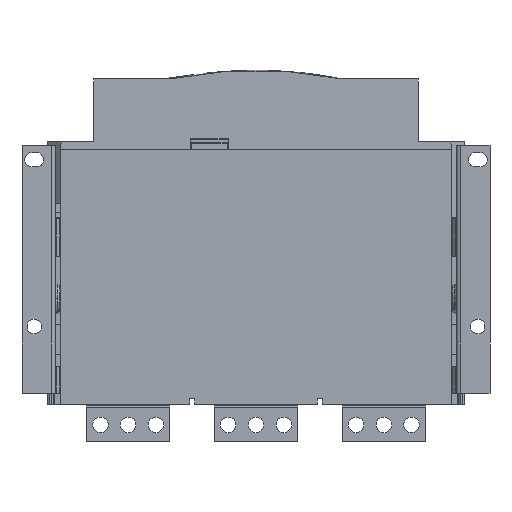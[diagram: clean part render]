
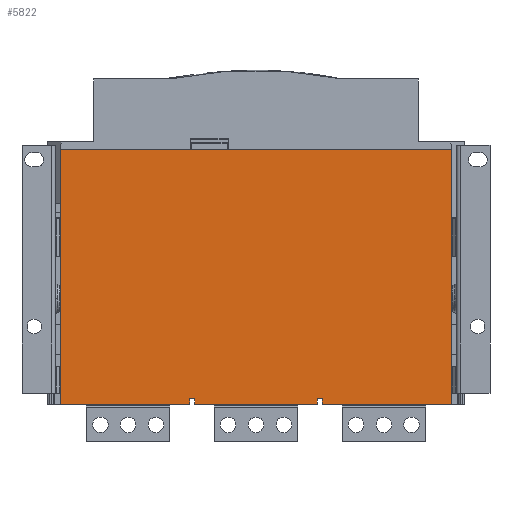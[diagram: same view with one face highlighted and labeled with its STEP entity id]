
A CAD part, front view. The second image highlights one B-rep face of the part: STEP entity #5822.
In plain terms, the highlighted planar face has unit normal (0, -1, 0).
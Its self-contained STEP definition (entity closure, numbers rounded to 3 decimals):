
#787 = EDGE_CURVE ( 'NONE', #42574, #28986, #116834, .T. ) ;
#1281 = VERTEX_POINT ( 'NONE', #22452 ) ;
#2656 = VECTOR ( 'NONE', #39673, 1000. ) ;
#5822 = ADVANCED_FACE ( 'NONE', ( #127231 ), #90558, .F. ) ;
#10576 = CARTESIAN_POINT ( 'NONE',  ( 118.222, 79.913, 207.614 ) ) ;
#10612 = DIRECTION ( 'NONE',  ( 1., 0., 0. ) ) ;
#10644 = EDGE_CURVE ( 'NONE', #61437, #42574, #142256, .T. ) ;
#12478 = VECTOR ( 'NONE', #97050, 1000. ) ;
#13738 = CARTESIAN_POINT ( 'NONE',  ( 233.972, 79.913, 309.114 ) ) ;
#17752 = LINE ( 'NONE', #13738, #86307 ) ;
#19256 = LINE ( 'NONE', #23169, #105491 ) ;
#19847 = ORIENTED_EDGE ( 'NONE', *, *, #22049, .T. ) ;
#22049 = EDGE_CURVE ( 'NONE', #93753, #1281, #96043, .T. ) ;
#22452 = CARTESIAN_POINT ( 'NONE',  ( 233.972, 79.913, 202.614 ) ) ;
#22928 = CARTESIAN_POINT ( 'NONE',  ( -1.278, 79.913, 207.614 ) ) ;
#23169 = CARTESIAN_POINT ( 'NONE',  ( 233.972, 79.913, 431.614 ) ) ;
#23843 = EDGE_CURVE ( 'NONE', #144560, #31842, #138481, .T. ) ;
#25431 = ORIENTED_EDGE ( 'NONE', *, *, #93873, .F. ) ;
#25946 = VECTOR ( 'NONE', #100768, 1000. ) ;
#26235 = ORIENTED_EDGE ( 'NONE', *, *, #787, .T. ) ;
#28986 = VERTEX_POINT ( 'NONE', #49811 ) ;
#31744 = ORIENTED_EDGE ( 'NONE', *, *, #66371, .T. ) ;
#31842 = VERTEX_POINT ( 'NONE', #40202 ) ;
#38915 = VERTEX_POINT ( 'NONE', #136415 ) ;
#38966 = CARTESIAN_POINT ( 'NONE',  ( -117.028, 79.913, 202.614 ) ) ;
#39636 = LINE ( 'NONE', #87409, #110119 ) ;
#39673 = DIRECTION ( 'NONE',  ( -1., 0., 0. ) ) ;
#40108 = VECTOR ( 'NONE', #92103, 1000. ) ;
#40202 = CARTESIAN_POINT ( 'NONE',  ( -1.278, 79.913, 202.614 ) ) ;
#42574 = VERTEX_POINT ( 'NONE', #79960 ) ;
#45913 = CARTESIAN_POINT ( 'NONE',  ( -114.028, 79.913, 202.614 ) ) ;
#46379 = CARTESIAN_POINT ( 'NONE',  ( -1.278, 79.913, 207.614 ) ) ;
#49811 = CARTESIAN_POINT ( 'NONE',  ( 113.722, 79.913, 202.614 ) ) ;
#50424 = VECTOR ( 'NONE', #59631, 1000. ) ;
#57630 = LINE ( 'NONE', #93580, #40108 ) ;
#59427 = EDGE_CURVE ( 'NONE', #105590, #93753, #112132, .T. ) ;
#59631 = DIRECTION ( 'NONE',  ( 0., 0., -1. ) ) ;
#61437 = VERTEX_POINT ( 'NONE', #119974 ) ;
#63850 = DIRECTION ( 'NONE',  ( -1., 0., 0. ) ) ;
#64725 = LINE ( 'NONE', #120920, #85896 ) ;
#65599 = CARTESIAN_POINT ( 'NONE',  ( 118.222, 79.913, 207.614 ) ) ;
#66371 = EDGE_CURVE ( 'NONE', #77940, #38915, #19256, .T. ) ;
#67139 = DIRECTION ( 'NONE',  ( 0., 0., -1. ) ) ;
#67785 = CARTESIAN_POINT ( 'NONE',  ( -114.028, 79.913, 202.614 ) ) ;
#68784 = ORIENTED_EDGE ( 'NONE', *, *, #23843, .F. ) ;
#69580 = VECTOR ( 'NONE', #78861, 1000. ) ;
#70379 = EDGE_CURVE ( 'NONE', #121579, #31842, #64725, .T. ) ;
#77461 = ORIENTED_EDGE ( 'NONE', *, *, #59427, .T. ) ;
#77940 = VERTEX_POINT ( 'NONE', #131419 ) ;
#78861 = DIRECTION ( 'NONE',  ( 1., 0., 0. ) ) ;
#79960 = CARTESIAN_POINT ( 'NONE',  ( 3.222, 79.913, 202.614 ) ) ;
#80045 = CARTESIAN_POINT ( 'NONE',  ( 3.222, 79.913, 207.614 ) ) ;
#81441 = VECTOR ( 'NONE', #117509, 1000. ) ;
#85896 = VECTOR ( 'NONE', #10612, 1000. ) ;
#86307 = VECTOR ( 'NONE', #137797, 1000. ) ;
#86339 = VERTEX_POINT ( 'NONE', #103371 ) ;
#87409 = CARTESIAN_POINT ( 'NONE',  ( -114.028, 79.913, 207.614 ) ) ;
#88534 = EDGE_CURVE ( 'NONE', #86339, #28986, #105793, .T. ) ;
#90558 = PLANE ( 'NONE',  #143042 ) ;
#91742 = ORIENTED_EDGE ( 'NONE', *, *, #88534, .F. ) ;
#92103 = DIRECTION ( 'NONE',  ( 0., 0., -1. ) ) ;
#92343 = LINE ( 'NONE', #130745, #2656 ) ;
#92425 = DIRECTION ( 'NONE',  ( -1., 0., 0. ) ) ;
#93580 = CARTESIAN_POINT ( 'NONE',  ( -117.028, 79.913, 322.614 ) ) ;
#93753 = VERTEX_POINT ( 'NONE', #139656 ) ;
#93873 = EDGE_CURVE ( 'NONE', #61437, #144560, #92343, .T. ) ;
#96043 = LINE ( 'NONE', #45913, #69580 ) ;
#97050 = DIRECTION ( 'NONE',  ( 0., 0., -1. ) ) ;
#97797 = ORIENTED_EDGE ( 'NONE', *, *, #114030, .F. ) ;
#100768 = DIRECTION ( 'NONE',  ( 0., 0., -1. ) ) ;
#101428 = CARTESIAN_POINT ( 'NONE',  ( 58.472, 79.913, 309.114 ) ) ;
#103371 = CARTESIAN_POINT ( 'NONE',  ( 113.722, 79.913, 207.614 ) ) ;
#105491 = VECTOR ( 'NONE', #92425, 1000. ) ;
#105590 = VERTEX_POINT ( 'NONE', #65599 ) ;
#105793 = LINE ( 'NONE', #119258, #12478 ) ;
#109046 = EDGE_LOOP ( 'NONE', ( #19847, #116845, #31744, #133964, #125128, #68784, #25431, #121316, #26235, #91742, #97797, #77461 ) ) ;
#110119 = VECTOR ( 'NONE', #63850, 1000. ) ;
#112132 = LINE ( 'NONE', #10576, #126313 ) ;
#112844 = DIRECTION ( 'NONE',  ( 0., 1., 0. ) ) ;
#113316 = DIRECTION ( 'NONE',  ( 1., 0., 0. ) ) ;
#114030 = EDGE_CURVE ( 'NONE', #105590, #86339, #39636, .T. ) ;
#116834 = LINE ( 'NONE', #67785, #81441 ) ;
#116845 = ORIENTED_EDGE ( 'NONE', *, *, #123928, .F. ) ;
#117509 = DIRECTION ( 'NONE',  ( 1., 0., 0. ) ) ;
#119258 = CARTESIAN_POINT ( 'NONE',  ( 113.722, 79.913, 207.614 ) ) ;
#119974 = CARTESIAN_POINT ( 'NONE',  ( 3.222, 79.913, 207.614 ) ) ;
#120920 = CARTESIAN_POINT ( 'NONE',  ( -114.028, 79.913, 202.614 ) ) ;
#121316 = ORIENTED_EDGE ( 'NONE', *, *, #10644, .T. ) ;
#121560 = EDGE_CURVE ( 'NONE', #38915, #121579, #57630, .T. ) ;
#121579 = VERTEX_POINT ( 'NONE', #38966 ) ;
#123928 = EDGE_CURVE ( 'NONE', #77940, #1281, #17752, .T. ) ;
#125128 = ORIENTED_EDGE ( 'NONE', *, *, #70379, .T. ) ;
#126313 = VECTOR ( 'NONE', #67139, 1000. ) ;
#127231 = FACE_OUTER_BOUND ( 'NONE', #109046, .T. ) ;
#130745 = CARTESIAN_POINT ( 'NONE',  ( -114.028, 79.913, 207.614 ) ) ;
#131419 = CARTESIAN_POINT ( 'NONE',  ( 233.972, 79.913, 431.614 ) ) ;
#133964 = ORIENTED_EDGE ( 'NONE', *, *, #121560, .T. ) ;
#136415 = CARTESIAN_POINT ( 'NONE',  ( -117.028, 79.913, 431.614 ) ) ;
#137797 = DIRECTION ( 'NONE',  ( 0., 0., -1. ) ) ;
#138481 = LINE ( 'NONE', #46379, #50424 ) ;
#139656 = CARTESIAN_POINT ( 'NONE',  ( 118.222, 79.913, 202.614 ) ) ;
#142256 = LINE ( 'NONE', #80045, #25946 ) ;
#143042 = AXIS2_PLACEMENT_3D ( 'NONE', #101428, #112844, #113316 ) ;
#144560 = VERTEX_POINT ( 'NONE', #22928 ) ;
